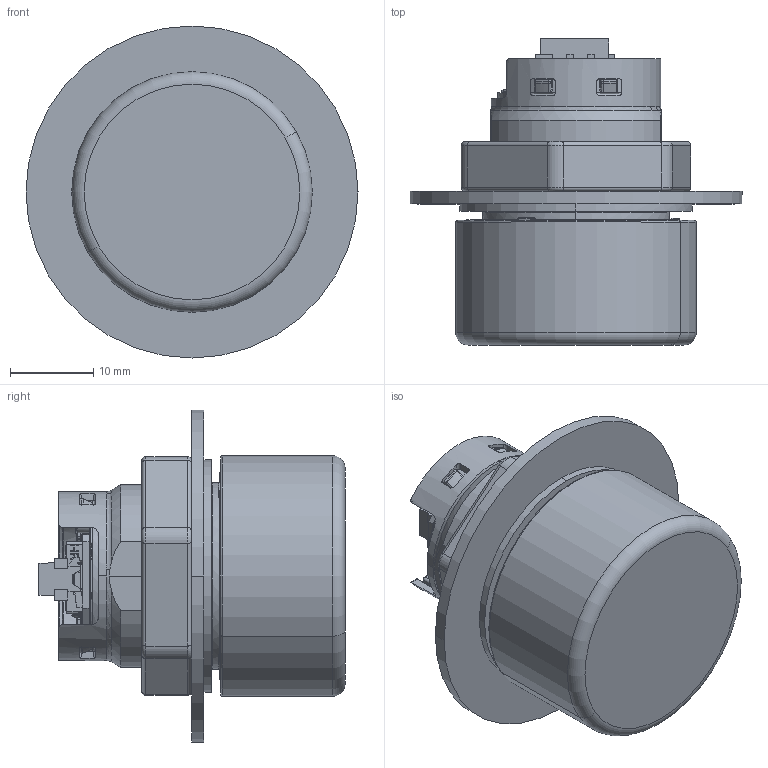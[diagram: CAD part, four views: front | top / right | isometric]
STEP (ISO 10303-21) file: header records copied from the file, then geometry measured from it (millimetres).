
FILE_DESCRIPTION(('Creo Elements/Direct Modeling STEP Export'),'2;1');
FILE_NAME('CORE04-Axxxxx.stp','2026-09-09T14:01:28',(''),(''),'Creo Elements/Direct Modeling STEP processor for AP214 (Solid Model)','Creo Elements/Direct Modeling 20.6D 10-Jan-2026 (C) Parametric Technology GmbH','');
FILE_SCHEMA(('AUTOMOTIVE_DESIGN { 1 0 10303 214 1 1 1 1 }'));
Length unit declared in the file: millimetre
Products named in the file (11): Cover_Design_2_50Grad; Gehaeuse; Cover_Design_3_60Grad; Cover_Design_1_40Grad; Cover_Design_4_70Grad; Design_recommendations; PCBA_V0; PCBA_V1; Nut_2; CORE04_A; CORE04-Axxxxx
Assembly tree (10 placements, depth 3):
  CORE04-Axxxxx
    CORE04_A
    Nut_2
    PCBA_V1
    PCBA_V0
    Design_recommendations
      Cover_Design_4_70Grad
      Cover_Design_1_40Grad
      Cover_Design_3_60Grad
      Gehaeuse
      Cover_Design_2_50Grad
Bounding box: 40 x 36.89 x 40 mm (x, y, z)
Volume: 25411.1 mm3; surface area: 25153.1 mm2
Topology: 9 solids, 9 shells, 2728 faces, 7655 edges, 4846 vertices
Faces by surface type: plane 1177, cylinder 795, bspline 347, torus 309, cone 71, sphere 17, revolution 12
Entity records: 151063 total; most frequent: CARTESIAN_POINT 70724, ORIENTED_EDGE 15228, DIRECTION 11822, EDGE_CURVE 7614, VERTEX_POINT 4846, VECTOR 4080, LINE 4080, AXIS2_PLACEMENT_3D 3868
